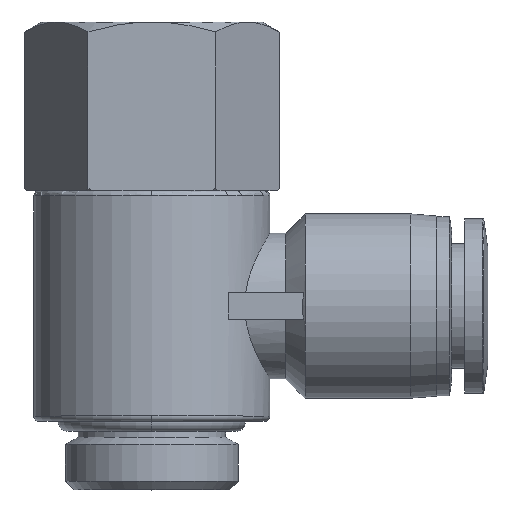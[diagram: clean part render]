
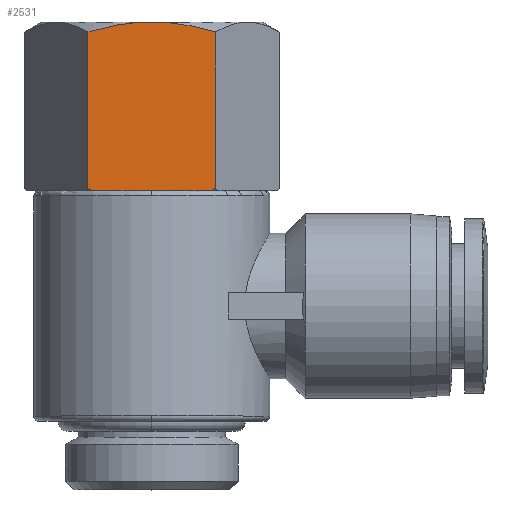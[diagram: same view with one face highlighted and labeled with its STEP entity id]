
A CAD part, top view. The second image highlights one B-rep face of the part: STEP entity #2531.
In plain terms, the highlighted planar face has unit normal (0, 0, 1).
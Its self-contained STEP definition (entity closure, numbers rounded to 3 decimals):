
#5 = EDGE_CURVE ( 'NONE', #1456, #304, #1305, .T. ) ;
#43 = CARTESIAN_POINT ( 'NONE',  ( -6.062, 54.962, 10.5 ) ) ;
#137 = LINE ( 'NONE', #2950, #1592 ) ;
#155 = EDGE_CURVE ( 'NONE', #735, #960, #137, .T. ) ;
#240 = ORIENTED_EDGE ( 'NONE', *, *, #1117, .F. ) ;
#279 =( BOUNDED_CURVE ( )  B_SPLINE_CURVE ( 2, ( #2520, #2783, #633 ),
 .UNSPECIFIED., .F., .T. ) 
 B_SPLINE_CURVE_WITH_KNOTS ( ( 3, 3 ),
 ( 0., 0.046 ),
 .UNSPECIFIED. ) 
 CURVE ( )  GEOMETRIC_REPRESENTATION_ITEM ( )  RATIONAL_B_SPLINE_CURVE ( ( 1., 1., 1. ) ) 
 REPRESENTATION_ITEM ( '' )  );
#304 = VERTEX_POINT ( 'NONE', #1366 ) ;
#311 = VECTOR ( 'NONE', #2295, 1000. ) ;
#327 = CARTESIAN_POINT ( 'NONE',  ( -2.813, 55.9, 10.5 ) ) ;
#336 = EDGE_CURVE ( 'NONE', #1454, #1039, #1947, .T. ) ;
#346 = CARTESIAN_POINT ( 'NONE',  ( 2.059, 39.9, 10.5 ) ) ;
#382 = LINE ( 'NONE', #1151, #1388 ) ;
#443 = CARTESIAN_POINT ( 'NONE',  ( 6.062, 54.962, 10.5 ) ) ;
#455 = CARTESIAN_POINT ( 'NONE',  ( -5.855, 39.996, 10.5 ) ) ;
#464 = VERTEX_POINT ( 'NONE', #443 ) ;
#490 = LINE ( 'NONE', #2620, #2229 ) ;
#572 = ORIENTED_EDGE ( 'NONE', *, *, #5, .F. ) ;
#633 = CARTESIAN_POINT ( 'NONE',  ( 5.652, 39.9, 10.5 ) ) ;
#636 = ORIENTED_EDGE ( 'NONE', *, *, #1762, .F. ) ;
#638 = DIRECTION ( 'NONE',  ( -1., 0., 0. ) ) ;
#681 = DIRECTION ( 'NONE',  ( 0., 1., 0. ) ) ;
#735 = VERTEX_POINT ( 'NONE', #346 ) ;
#823 = ORIENTED_EDGE ( 'NONE', *, *, #1199, .F. ) ;
#877 = CARTESIAN_POINT ( 'NONE',  ( -2.059, 39.9, 10.5 ) ) ;
#927 = EDGE_LOOP ( 'NONE', ( #572, #636, #2609, #823, #1954, #240, #2604, #1476, #1130 ) ) ;
#932 = LINE ( 'NONE', #877, #1196 ) ;
#952 = CARTESIAN_POINT ( 'NONE',  ( 2.813, 55.9, 10.5 ) ) ;
#960 = VERTEX_POINT ( 'NONE', #1418 ) ;
#965 = DIRECTION ( 'NONE',  ( 1., 0., 0. ) ) ;
#1039 = VERTEX_POINT ( 'NONE', #1082 ) ;
#1082 = CARTESIAN_POINT ( 'NONE',  ( -6.062, 40.1, 10.5 ) ) ;
#1117 = EDGE_CURVE ( 'NONE', #1554, #735, #2568, .T. ) ;
#1130 = ORIENTED_EDGE ( 'NONE', *, *, #2744, .F. ) ;
#1151 = CARTESIAN_POINT ( 'NONE',  ( 6.062, 54.962, 10.5 ) ) ;
#1152 = DIRECTION ( 'NONE',  ( 0., 0., 1. ) ) ;
#1153 = CARTESIAN_POINT ( 'NONE',  ( -6.062, 40.1, 10.5 ) ) ;
#1196 = VECTOR ( 'NONE', #638, 1000. ) ;
#1199 = EDGE_CURVE ( 'NONE', #960, #1454, #932, .T. ) ;
#1218 = CARTESIAN_POINT ( 'NONE',  ( -6.062, 55.9, 10.5 ) ) ;
#1296 = DIRECTION ( 'NONE',  ( -1., 0., 0. ) ) ;
#1305 =( BOUNDED_CURVE ( )  B_SPLINE_CURVE ( 2, ( #43, #327, #1504 ),
 .UNSPECIFIED., .F., .T. ) 
 B_SPLINE_CURVE_WITH_KNOTS ( ( 3, 3 ),
 ( 0., 0.615 ),
 .UNSPECIFIED. ) 
 CURVE ( )  GEOMETRIC_REPRESENTATION_ITEM ( )  RATIONAL_B_SPLINE_CURVE ( ( 1., 1.038, 1. ) ) 
 REPRESENTATION_ITEM ( '' )  );
#1352 = DIRECTION ( 'NONE',  ( 0., -1., 0. ) ) ;
#1366 = CARTESIAN_POINT ( 'NONE',  ( 0., 55.9, 10.5 ) ) ;
#1388 = VECTOR ( 'NONE', #1352, 1000. ) ;
#1397 = FACE_OUTER_BOUND ( 'NONE', #927, .T. ) ;
#1418 = CARTESIAN_POINT ( 'NONE',  ( -2.059, 39.9, 10.5 ) ) ;
#1454 = VERTEX_POINT ( 'NONE', #2964 ) ;
#1456 = VERTEX_POINT ( 'NONE', #2235 ) ;
#1476 = ORIENTED_EDGE ( 'NONE', *, *, #2939, .F. ) ;
#1504 = CARTESIAN_POINT ( 'NONE',  ( 0., 55.9, 10.5 ) ) ;
#1554 = VERTEX_POINT ( 'NONE', #2700 ) ;
#1592 = VECTOR ( 'NONE', #1296, 1000. ) ;
#1668 = PLANE ( 'NONE',  #1677 ) ;
#1677 = AXIS2_PLACEMENT_3D ( 'NONE', #1218, #1152, #965 ) ;
#1762 = EDGE_CURVE ( 'NONE', #1039, #1456, #490, .T. ) ;
#1846 = CARTESIAN_POINT ( 'NONE',  ( 6.062, 40.1, 10.5 ) ) ;
#1857 = CARTESIAN_POINT ( 'NONE',  ( 5.652, 39.9, 10.5 ) ) ;
#1904 = CARTESIAN_POINT ( 'NONE',  ( 0., 55.9, 10.5 ) ) ;
#1947 =( BOUNDED_CURVE ( )  B_SPLINE_CURVE ( 2, ( #2318, #455, #1153 ),
 .UNSPECIFIED., .F., .T. ) 
 B_SPLINE_CURVE_WITH_KNOTS ( ( 3, 3 ),
 ( 0., 0.046 ),
 .UNSPECIFIED. ) 
 CURVE ( )  GEOMETRIC_REPRESENTATION_ITEM ( )  RATIONAL_B_SPLINE_CURVE ( ( 1., 1., 1. ) ) 
 REPRESENTATION_ITEM ( '' )  );
#1954 = ORIENTED_EDGE ( 'NONE', *, *, #155, .F. ) ;
#1988 = VERTEX_POINT ( 'NONE', #1846 ) ;
#2062 =( BOUNDED_CURVE ( )  B_SPLINE_CURVE ( 2, ( #1904, #952, #2848 ),
 .UNSPECIFIED., .F., .F. ) 
 B_SPLINE_CURVE_WITH_KNOTS ( ( 3, 3 ),
 ( 0.615, 1.23 ),
 .UNSPECIFIED. ) 
 CURVE ( )  GEOMETRIC_REPRESENTATION_ITEM ( )  RATIONAL_B_SPLINE_CURVE ( ( 1., 1.038, 1. ) ) 
 REPRESENTATION_ITEM ( '' )  );
#2229 = VECTOR ( 'NONE', #681, 1000. ) ;
#2235 = CARTESIAN_POINT ( 'NONE',  ( -6.062, 54.962, 10.5 ) ) ;
#2295 = DIRECTION ( 'NONE',  ( -1., 0., 0. ) ) ;
#2318 = CARTESIAN_POINT ( 'NONE',  ( -5.652, 39.9, 10.5 ) ) ;
#2520 = CARTESIAN_POINT ( 'NONE',  ( 6.062, 40.1, 10.5 ) ) ;
#2531 = ADVANCED_FACE ( 'NONE', ( #1397 ), #1668, .T. ) ;
#2568 = LINE ( 'NONE', #1857, #311 ) ;
#2604 = ORIENTED_EDGE ( 'NONE', *, *, #2984, .F. ) ;
#2609 = ORIENTED_EDGE ( 'NONE', *, *, #336, .F. ) ;
#2620 = CARTESIAN_POINT ( 'NONE',  ( -6.062, 40.1, 10.5 ) ) ;
#2700 = CARTESIAN_POINT ( 'NONE',  ( 5.652, 39.9, 10.5 ) ) ;
#2744 = EDGE_CURVE ( 'NONE', #304, #464, #2062, .T. ) ;
#2783 = CARTESIAN_POINT ( 'NONE',  ( 5.855, 39.996, 10.5 ) ) ;
#2848 = CARTESIAN_POINT ( 'NONE',  ( 6.062, 54.962, 10.5 ) ) ;
#2939 = EDGE_CURVE ( 'NONE', #464, #1988, #382, .T. ) ;
#2950 = CARTESIAN_POINT ( 'NONE',  ( 2.059, 39.9, 10.5 ) ) ;
#2964 = CARTESIAN_POINT ( 'NONE',  ( -5.652, 39.9, 10.5 ) ) ;
#2984 = EDGE_CURVE ( 'NONE', #1988, #1554, #279, .T. ) ;
